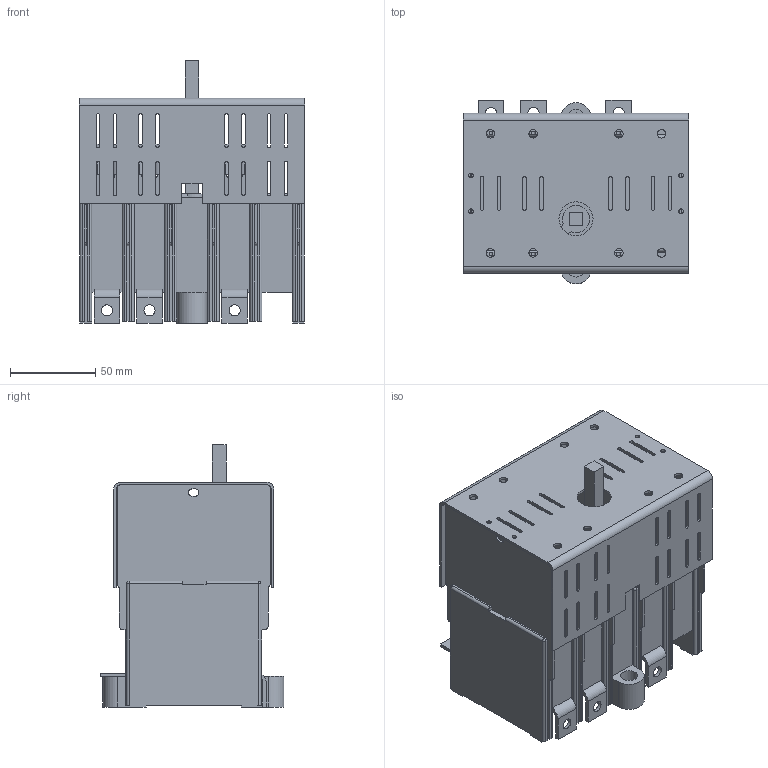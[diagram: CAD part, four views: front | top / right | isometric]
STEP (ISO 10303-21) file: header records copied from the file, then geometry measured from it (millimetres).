
FILE_DESCRIPTION(/* description */ (''),/* implementation_level */ '2;1');
FILE_NAME(/* name */ 'RAB 000 P3 B.stp',/* time_stamp */ '2021-08-19T10:36:26+02:00',/* author */ (''),/* organization */ (''),/* preprocessor_version */ 'ST-DEVELOPER v18.1',/* originating_system */ 'SIEMENS PLM Software NX 1965',/* authorisation */ '');
FILE_SCHEMA (('AUTOMOTIVE_DESIGN { 1 0 10303 214 3 1 1 1 }'));
Length unit declared in the file: millimetre
Products named in the file (1): RAB 000 P3 B_stp
Bounding box: 132.5 x 108 x 154 mm (x, y, z)
Volume: 738269.2 mm3; surface area: 207507.6 mm2
Topology: 1 solids, 1 shells, 1012 faces, 2867 edges, 1838 vertices
Faces by surface type: plane 651, cylinder 337, sphere 23, bspline 1
Full cylindrical faces by diameter (mm): 2.7 x4, 5 x8, 5.8 x2, 6.5 x6, 10 x2, 20 x1
Entity records: 32591 total; most frequent: CARTESIAN_POINT 5951, ORIENTED_EDGE 5620, DIRECTION 5413, EDGE_CURVE 2810, LINE 2069, VECTOR 2069, VERTEX_POINT 1828, AXIS2_PLACEMENT_3D 1672
